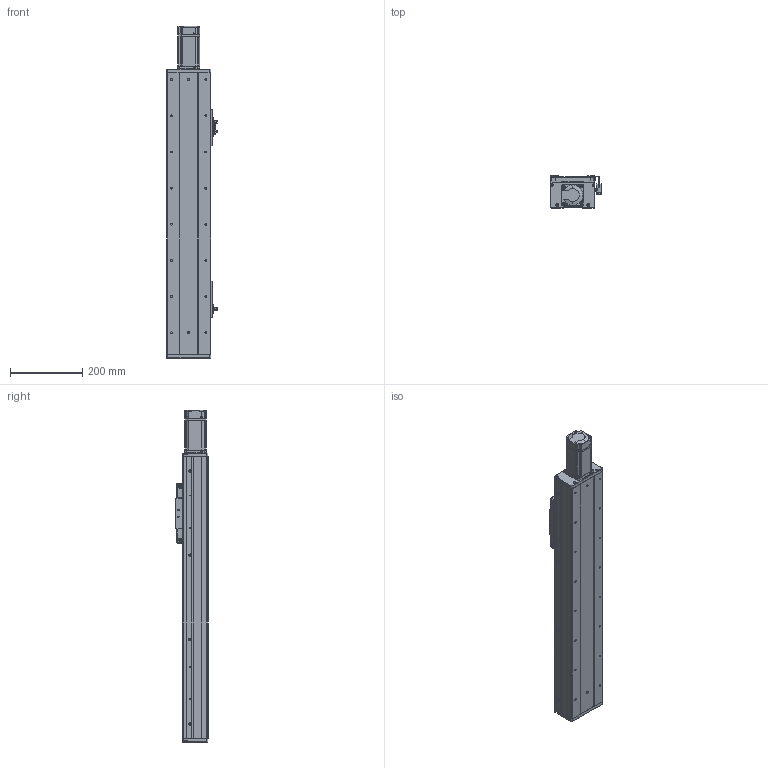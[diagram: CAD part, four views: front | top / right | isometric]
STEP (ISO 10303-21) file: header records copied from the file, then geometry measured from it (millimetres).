
FILE_DESCRIPTION (( 'STEP AP203' ), '1' );
FILE_NAME ('RY120F-L1620-300-MK.SLDASM_500.step', '2021-03-02T06:02:01', ( '盈信电脑' ), ( '东莞市道滘镇水果街19号' ), 'SwSTEP 2.0', 'SolidWorks 2012', '' );
FILE_SCHEMA (( 'CONFIG_CONTROL_DESIGN' ));
Length unit declared in the file: millimetre
Products named in the file (19): RY120F-L1620-300-MK.SLDASM_500; RY120F-臏賑輸 16蹟譫; 滅袉蝶18-28; FY120F詩湍揤踡輸; RY80俋离覜茼え; 672嫖萇羲壽假蚾釱; RY120F-詩湍幗謫粣; 覜茼ん672; RY120F綴裔啣(臏璃ㄘ; RY120F眻蟀ヶ裔啣; 滅袉蝶18-24; RY120F祥凄詩滅鳥裔; 絳寢賑輸EGH15; 15; 侂狟400W侜督萇儂; RY120F-臏賑輸奻釱; RY120F-300-倰第裔啣_500; RY120F滅鳥詩湍-300-MK_500; RY120F-300-倰第菁釱_500
Assembly tree (25 placements, depth 3):
  RY120F-L1620-300-MK.SLDASM_500
    RY120F-300-倰第菁釱_500
    RY120F-300-倰第裔啣_500  x2
    RY120F滅鳥詩湍-300-MK_500
    絳寢賑輸EGH15  x2
    RY120F-臏賑輸奻釱
    侂狟400W侜督萇儂
      15
    RY120F眻蟀ヶ裔啣
    RY120F祥凄詩滅鳥裔
    滅袉蝶18-24
    RY120F綴裔啣(臏璃ㄘ
    RY120F-詩湍幗謫粣
    覜茼ん672  x3
    672嫖萇羲壽假蚾釱  x2
    RY80俋离覜茼え
    FY120F詩湍揤踡輸  x2
    RY120F-臏賑輸 16蹟譫
    滅袉蝶18-28  x2
Bounding box: 140.35 x 89 x 918.5 mm (x, y, z)
Volume: 2999875.3 mm3; surface area: 1038237.1 mm2
Topology: 24 solids, 24 shells, 2113 faces, 5641 edges, 3631 vertices
Faces by surface type: plane 966, cylinder 934, cone 195, bspline 18
Entity records: 56174 total; most frequent: CARTESIAN_POINT 10015, DIRECTION 9535, ORIENTED_EDGE 8910, EDGE_CURVE 4455, AXIS2_PLACEMENT_3D 3437, VERTEX_POINT 2915, LINE 2661, VECTOR 2661
